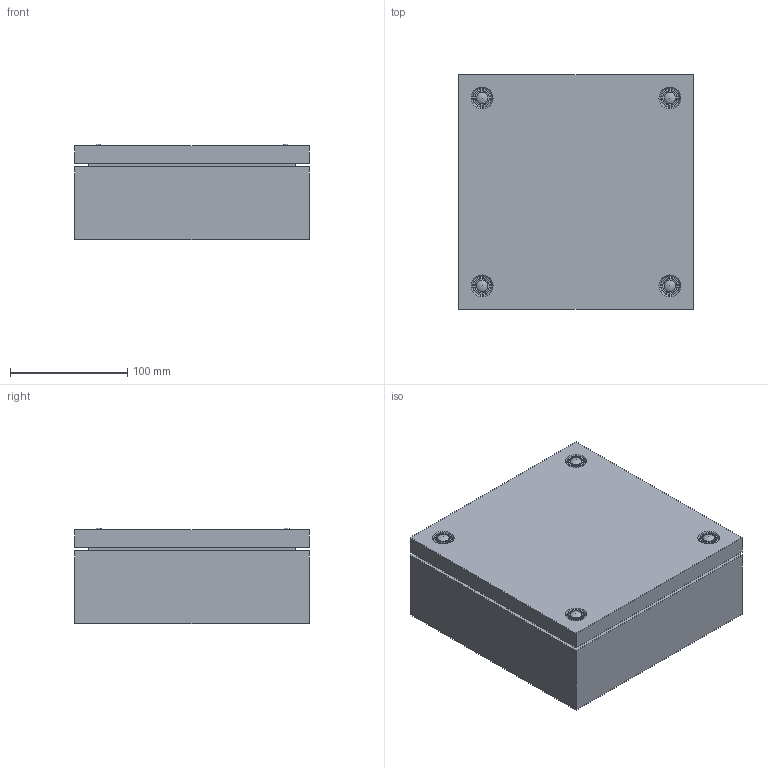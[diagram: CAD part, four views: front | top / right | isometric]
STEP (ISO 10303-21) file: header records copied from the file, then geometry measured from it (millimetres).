
FILE_DESCRIPTION( ( 'STEP AP214' ), '1' );
FILE_NAME( 'p:/temp/worker_206/temp/exporttempdir_1084_286_6HYf2/format_0/SSTB202008(0).stp', '2021-03-16T12:06:58', ( 'License CC BY-ND 4.0' ), ( 'CADENAS' ), ' ', 'PARTsolutions', ' ' );
FILE_SCHEMA( ( 'AUTOMOTIVE_DESIGN { 1 0 10303 214 1 1 1 1 }' ) );
Length unit declared in the file: millimetre
Products named in the file (4): SSTB202008(0); _SSTB202008(0)_01; _SSTB2020XX(0)_02; _SSTBXXXXXX(0)_03
Assembly tree (6 placements, depth 2):
  SSTB202008(0)
    _SSTB202008(0)_01
    _SSTB2020XX(0)_02
    _SSTBXXXXXX(0)_03  x4
Bounding box: 200 x 200 x 81.3 mm (x, y, z)
Volume: 218872.8 mm3; surface area: 331764.2 mm2
Topology: 6 solids, 6 shells, 235 faces, 529 edges, 343 vertices
Faces by surface type: plane 145, cylinder 56, cone 30, sphere 4
Full cylindrical faces by diameter (mm): 4.9 x4, 6 x4, 7 x4, 7.22 x2, 7.5 x4, 8 x6, 9 x2, 10 x4, 16 x2
Entity records: 7026 total; most frequent: DIRECTION 934, CARTESIAN_POINT 933, ORIENTED_EDGE 828, EDGE_CURVE 414, AXIS2_PLACEMENT_3D 325, VERTEX_POINT 292, LINE 284, VECTOR 284
